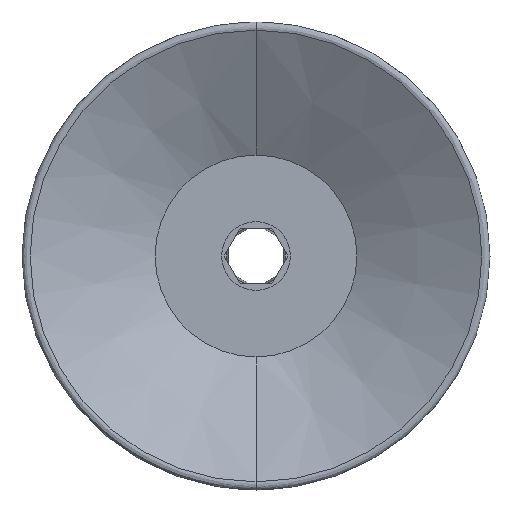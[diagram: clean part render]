
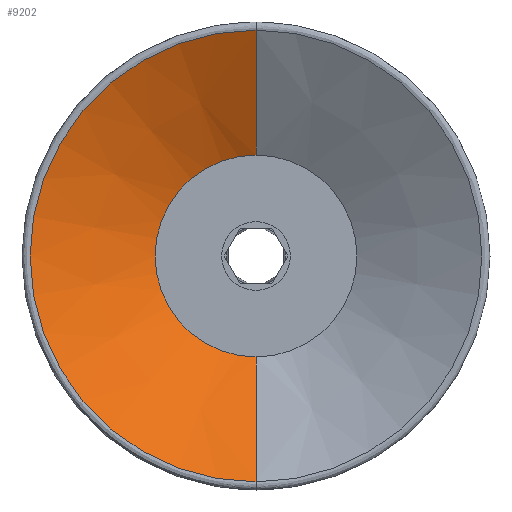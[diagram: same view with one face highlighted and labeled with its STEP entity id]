
A CAD part, front view. The second image highlights one B-rep face of the part: STEP entity #9202.
In plain terms, the highlighted conical face has half-angle 61.384 degrees and reference radius 24.613 mm.
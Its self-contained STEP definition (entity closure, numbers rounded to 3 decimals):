
#263 = DIRECTION ( 'NONE',  ( 0., -1., 0. ) ) ;
#314 = CARTESIAN_POINT ( 'NONE',  ( 0., -12.5, 0. ) ) ;
#568 = AXIS2_PLACEMENT_3D ( 'NONE', #314, #263, #15593 ) ;
#570 = ORIENTED_EDGE ( 'NONE', *, *, #9375, .F. ) ;
#931 = DIRECTION ( 'NONE',  ( 0., 1., 0. ) ) ;
#985 = CARTESIAN_POINT ( 'NONE',  ( 0., -12.5, 11. ) ) ;
#1195 = ORIENTED_EDGE ( 'NONE', *, *, #2918, .T. ) ;
#1424 = CONICAL_SURFACE ( 'NONE', #2444, 24.613, 1.071 ) ;
#2331 = LINE ( 'NONE', #10594, #8408 ) ;
#2444 = AXIS2_PLACEMENT_3D ( 'NONE', #14026, #15192, #6787 ) ;
#2809 = EDGE_CURVE ( 'NONE', #15065, #8592, #7952, .T. ) ;
#2858 = FACE_OUTER_BOUND ( 'NONE', #12840, .T. ) ;
#2918 = EDGE_CURVE ( 'NONE', #15065, #9745, #9705, .T. ) ;
#3228 = DIRECTION ( 'NONE',  ( 0., -0.479, -0.878 ) ) ;
#5058 = ORIENTED_EDGE ( 'NONE', *, *, #2809, .F. ) ;
#6787 = DIRECTION ( 'NONE',  ( 0., 0., -1. ) ) ;
#7952 = CIRCLE ( 'NONE', #568, 11. ) ;
#8167 = CARTESIAN_POINT ( 'NONE',  ( 0., -19.927, 0. ) ) ;
#8408 = VECTOR ( 'NONE', #3228, 1000. ) ;
#8592 = VERTEX_POINT ( 'NONE', #14558 ) ;
#9202 = ADVANCED_FACE ( 'NONE', ( #2858 ), #1424, .F. ) ;
#9314 = VECTOR ( 'NONE', #11270, 1000. ) ;
#9375 = EDGE_CURVE ( 'NONE', #8592, #14462, #2331, .T. ) ;
#9412 = DIRECTION ( 'NONE',  ( 0., 0., -1. ) ) ;
#9705 = LINE ( 'NONE', #12376, #9314 ) ;
#9745 = VERTEX_POINT ( 'NONE', #15506 ) ;
#10566 = AXIS2_PLACEMENT_3D ( 'NONE', #8167, #931, #9412 ) ;
#10594 = CARTESIAN_POINT ( 'NONE',  ( 0., -19.927, -24.613 ) ) ;
#10602 = CARTESIAN_POINT ( 'NONE',  ( 0., -19.927, -24.613 ) ) ;
#11270 = DIRECTION ( 'NONE',  ( 0., -0.479, 0.878 ) ) ;
#12371 = EDGE_CURVE ( 'NONE', #14462, #9745, #14352, .T. ) ;
#12376 = CARTESIAN_POINT ( 'NONE',  ( 0., -19.927, 24.613 ) ) ;
#12840 = EDGE_LOOP ( 'NONE', ( #5058, #1195, #12949, #570 ) ) ;
#12949 = ORIENTED_EDGE ( 'NONE', *, *, #12371, .F. ) ;
#14026 = CARTESIAN_POINT ( 'NONE',  ( 0., -19.927, 0. ) ) ;
#14352 = CIRCLE ( 'NONE', #10566, 24.613 ) ;
#14462 = VERTEX_POINT ( 'NONE', #10602 ) ;
#14558 = CARTESIAN_POINT ( 'NONE',  ( 0., -12.5, -11. ) ) ;
#15065 = VERTEX_POINT ( 'NONE', #985 ) ;
#15192 = DIRECTION ( 'NONE',  ( 0., -1., 0. ) ) ;
#15506 = CARTESIAN_POINT ( 'NONE',  ( 0., -19.927, 24.613 ) ) ;
#15593 = DIRECTION ( 'NONE',  ( 0., 0., -1. ) ) ;
